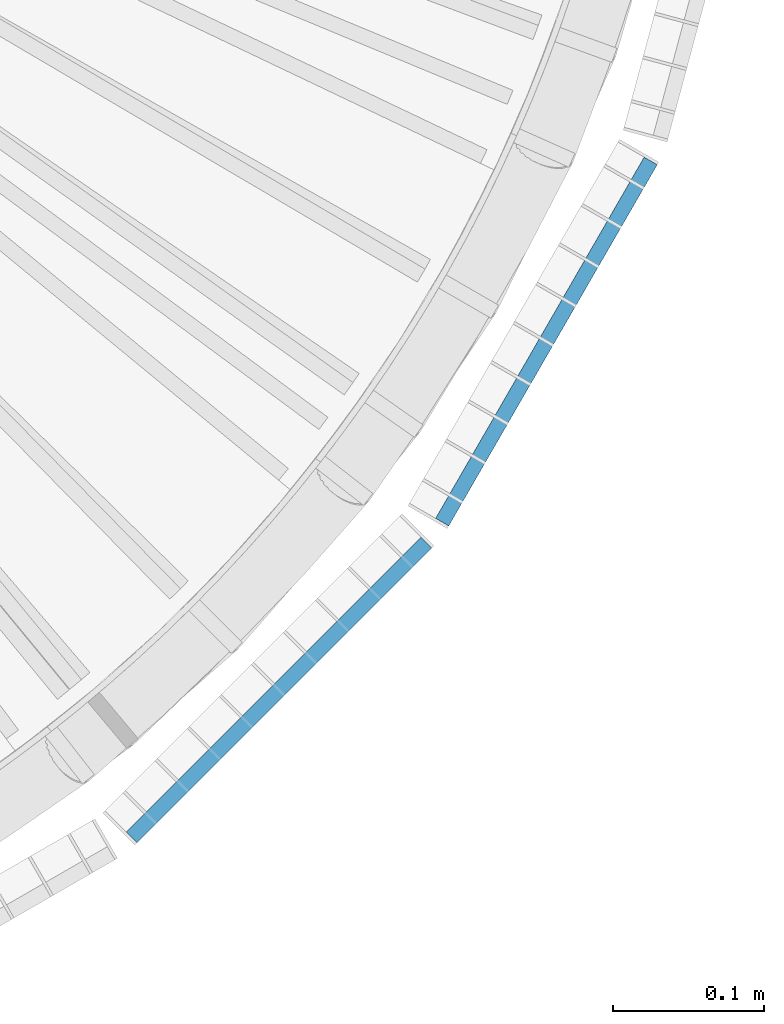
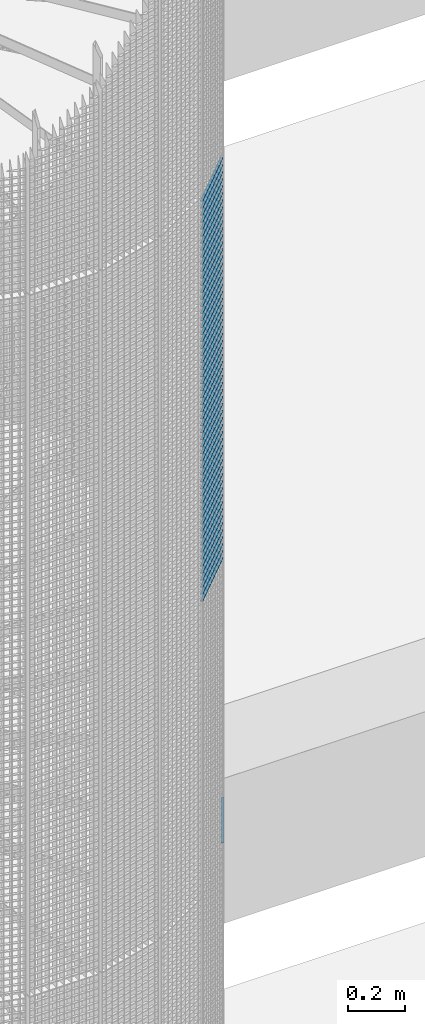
# One storey, part 240 of 1183: 59 beams, 2 elements without a shape of their own.
"""IFC2X3 building model written with IfcOpenShell, lengths in millimetres."""

import ifcopenshell
import ifcopenshell.guid

model = None  # the IFC model being written
_history = None  # IfcOwnerHistory: only IFC2X3 demands one
_inside = {}  # id of a spatial element -> (the spatial element, [elements in it])
_under = {}  # id of a project, library or spatial element -> (it, [spatial elements below it])
_declared = {}  # id of a project -> (the project, [libraries it declares])
_typed = {}  # id of a type object -> (the type object, [elements of that type])
_made_of = {}  # id of a material, layer set ... -> (it, [elements and type objects made of it])


def new_model(schema):
    """Start an empty IFC model of exactly this schema.

    Asked for "IFC4X3", IfcOpenShell would pick the latest addendum, in which some entities
    have other attributes; the version numbers below select the first issue.
    IFC2X3 requires an IfcOwnerHistory on every rooted entity: one is made here for all.
    """
    global model, _history
    if schema == "IFC4X3":
        model = ifcopenshell.file(schema_version=(4, 3, 0, 0))
    else:
        model = ifcopenshell.file(schema=schema)
    _inside.clear()
    _under.clear()
    _declared.clear()
    _typed.clear()
    _made_of.clear()
    _history = None
    if model.schema == "IFC2X3":
        org = make("IfcOrganization", Name="unknown")
        user = make(
            "IfcPersonAndOrganization",
            ThePerson=make("IfcPerson", FamilyName="unknown"),
            TheOrganization=org,
        )
        app = make(
            "IfcApplication",
            ApplicationDeveloper=org,
            Version="unknown",
            ApplicationFullName="unknown",
            ApplicationIdentifier="unknown",
        )
        _history = make(
            "IfcOwnerHistory",
            OwningUser=user,
            OwningApplication=app,
            ChangeAction="ADDED",
            CreationDate=0,
        )
    return model


def make(cls, **values):
    """One entity of the class cls with the attributes given. An attribute that is None is left unset."""
    return model.create_entity(
        cls, **{name: value for name, value in values.items() if value is not None}
    )


def rooted(cls, **values):
    """An entity with a GlobalId (a new one), such as an element, a storey or a relation."""
    return make(cls, GlobalId=ifcopenshell.guid.new(), OwnerHistory=_history, **values)


def si_unit(unit_type, name, prefix=None):
    """IfcSIUnit, for example si_unit("LENGTHUNIT", "METRE", prefix="MILLI")."""
    return make("IfcSIUnit", UnitType=unit_type, Prefix=prefix, Name=name)


def assignment(units):
    """IfcUnitAssignment: the units of a project."""
    return None if units is None else make("IfcUnitAssignment", Units=units)


def point(xyz):
    """IfcCartesianPoint."""
    return None if xyz is None else make("IfcCartesianPoint", Coordinates=xyz)


def direction(xyz):
    """IfcDirection."""
    return None if xyz is None else make("IfcDirection", DirectionRatios=xyz)


def frame(location, z_axis=None, x_axis=None):
    """IfcAxis2Placement3D, a coordinate frame: its origin and axes. An axis left out is left unset."""
    return make(
        "IfcAxis2Placement3D",
        Location=point(location),
        Axis=direction(z_axis),
        RefDirection=direction(x_axis),
    )


def frame_2d(location, x_axis=None):
    """IfcAxis2Placement2D, a coordinate frame in the plane: its origin and x axis."""
    return make(
        "IfcAxis2Placement2D", Location=point(location), RefDirection=direction(x_axis)
    )


def origin_with_axes():
    """The frame at (0, 0, 0) with the z axis (0, 0, 1) and the x axis (1, 0, 0) written out."""
    return frame((0.0, 0.0, 0.0), z_axis=(0.0, 0.0, 1.0), x_axis=(1.0, 0.0, 0.0))


def origin_2d_with_axis():
    """The frame at (0, 0) in the plane with the x axis (1, 0) written out."""
    return frame_2d((0.0, 0.0), x_axis=(1.0, 0.0))


def place(relative_to, where):
    """IfcLocalPlacement: puts the frame where relative to a parent placement (None: the world)."""
    return make(
        "IfcLocalPlacement", PlacementRelTo=relative_to, RelativePlacement=where
    )


def context(
    kind, dimensions, precision=None, world=None, true_north=None, identifier=None
):
    """IfcGeometricRepresentationContext, for example the 3D "Model" context."""
    return make(
        "IfcGeometricRepresentationContext",
        ContextIdentifier=identifier,
        ContextType=kind,
        CoordinateSpaceDimension=dimensions,
        Precision=precision,
        WorldCoordinateSystem=world,
        TrueNorth=true_north,
    )


def subcontext(parent, identifier, kind, view, scale=None):
    """IfcGeometricRepresentationSubContext, for example "Body" below "Model"."""
    return make(
        "IfcGeometricRepresentationSubContext",
        ContextIdentifier=identifier,
        ContextType=kind,
        ParentContext=parent,
        TargetScale=scale,
        TargetView=view,
    )


def project(units=None, contexts=None):
    """IfcProject with its units and contexts."""
    return rooted(
        "IfcProject",
        Name="project",
        RepresentationContexts=contexts,
        UnitsInContext=assignment(units),
    )


def spatial(cls, under=None, at=None, **own):
    """A site, building, storey or space (cls), placed at a placement, below another one or the project."""
    s = rooted(cls, ObjectPlacement=at, **own)
    if under is not None:
        _under.setdefault(under.id(), (under, []))[1].append(s)
    return s


def profile(cls, at=None, kind="AREA", **sizes):
    """A parametric profile (cls). Its sizes go by their IFC names, for example OverallWidth=200.0."""
    return make(cls, ProfileType=kind, Position=at, **sizes)


def rectangle(**sizes):
    """IfcRectangleProfileDef."""
    return profile("IfcRectangleProfileDef", **sizes)


def extrude(swept, where, along, depth):
    """IfcExtrudedAreaSolid: the profile swept, set in the frame where, extruded along a direction by depth."""
    return make(
        "IfcExtrudedAreaSolid",
        SweptArea=swept,
        Position=where,
        ExtrudedDirection=direction(along),
        Depth=depth,
    )


def shape(context_of_items, identifier, shape_type, items):
    """IfcShapeRepresentation: the items that make up one representation, for example the "Body"."""
    return make(
        "IfcShapeRepresentation",
        ContextOfItems=context_of_items,
        RepresentationIdentifier=identifier,
        RepresentationType=shape_type,
        Items=items,
    )


def material(Name=None, Category=None):
    """IfcMaterial."""
    return make("IfcMaterial", Name=Name, Category=Category)


def made_of(thing, what):
    """Note that an element or type object is made of a material, layer set ...; save() writes the relation."""
    if what is not None:
        _made_of.setdefault(what.id(), (what, []))[1].append(thing)
    return thing


def type_object(cls, material=None, **own):
    """A type object (cls), such as IfcWallType, which elements share."""
    return made_of(rooted(cls, **own), material)


def element(
    cls,
    number,
    at=None,
    inside=None,
    cuts=None,
    type_object=None,
    material=None,
    context=None,
    identifier="Body",
    shape_type=None,
    held_by="IfcProductDefinitionShape",
    body=None,
    shapes=None,
    **own,
):
    """One element of the class cls, such as IfcWall. Its Tag is "e" and its number.

    at: its placement. inside: the storey or other place that contains it. cuts: it is an
    opening in that element (IfcRelVoidsElement). A single representation is given by context,
    identifier, shape_type and body (its items); several are given by shapes. held_by: the class
    of the entity that holds the representations. save() writes the other relations.
    """
    e = rooted(cls, Tag="e%d" % number, ObjectPlacement=at, **own)
    if body is not None:
        shapes = [shape(context, identifier, shape_type, body)]
    if shapes is not None:
        e.Representation = make(held_by, Representations=shapes)
    if inside is not None:
        _inside.setdefault(inside.id(), (inside, []))[1].append(e)
    if cuts is not None:
        rooted(
            "IfcRelVoidsElement", RelatingBuildingElement=cuts, RelatedOpeningElement=e
        )
    if type_object is not None:
        _typed.setdefault(type_object.id(), (type_object, []))[1].append(e)
    return made_of(e, material)


def aggregate(whole, parts):
    """IfcRelAggregates: a whole, such as a stair, and the parts it consists of."""
    return rooted("IfcRelAggregates", RelatingObject=whole, RelatedObjects=parts)


def save(model, path):
    """Write the relations noted so far, then the file.

    IfcRelAggregates (storeys below a building ...), IfcRelContainedInSpatialStructure (elements
    in a storey), IfcRelDefinesByType, IfcRelAssociatesMaterial and IfcRelDeclares: one each for
    every whole, place, type object, material and project.
    """
    for whole, parts in _under.values():
        aggregate(whole, parts)
    for where, things in _inside.values():
        rooted(
            "IfcRelContainedInSpatialStructure",
            RelatedElements=things,
            RelatingStructure=where,
        )
    for kind, things in _typed.values():
        rooted("IfcRelDefinesByType", RelatedObjects=things, RelatingType=kind)
    for what, things in _made_of.values():
        rooted("IfcRelAssociatesMaterial", RelatedObjects=things, RelatingMaterial=what)
    for by, libraries in _declared.values():
        rooted("IfcRelDeclares", RelatingContext=by, RelatedDefinitions=libraries)
    model.write(path)


model = new_model("IFC2X3")

# Units and contexts
model_context = context("Model", 3, precision=1e-05, world=origin_with_axes())
body_context = subcontext(model_context, "Body", "Model", "MODEL_VIEW")
ifc_project = project(units=[si_unit("LENGTHUNIT", "METRE", prefix="MILLI"), si_unit("AREAUNIT", "SQUARE_METRE"), si_unit("VOLUMEUNIT", "CUBIC_METRE"), si_unit("MASSUNIT", "GRAM", prefix="KILO"), si_unit("TIMEUNIT", "SECOND"), si_unit("PLANEANGLEUNIT", "RADIAN"), si_unit("SOLIDANGLEUNIT", "STERADIAN"), si_unit("THERMODYNAMICTEMPERATUREUNIT", "DEGREE_CELSIUS"), si_unit("LUMINOUSINTENSITYUNIT", "LUMEN")], contexts=[model_context])

# Site, building, storey
site_placement = place(None, origin_with_axes())
site = spatial("IfcSite", under=ifc_project, at=site_placement, Name="Undefined", CompositionType="ELEMENT")
building_placement = place(site_placement, origin_with_axes())
building = spatial("IfcBuilding", under=site, at=building_placement, Name="Undefined", CompositionType="ELEMENT")
storey_placement = place(building_placement, origin_with_axes())
storey = spatial("IfcBuildingStorey", under=building, at=storey_placement, Name="Undefined", CompositionType="ELEMENT", Elevation=0.0)

# Assembly, beam
assembly_1_placement = place(storey_placement, origin_with_axes())
assembly_1 = element("IfcElementAssembly", 1, at=assembly_1_placement, inside=storey, Name="BORDURE", AssemblyPlace="NOTDEFINED", PredefinedType="NOTDEFINED")
ifc_material = material(Name="STEEL/S235JR")
beam_type = type_object("IfcBeamType", Name="PL2*10", PredefinedType="NOTDEFINED")
beam_1_placement = place(assembly_1_placement, frame((895.30396491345, -676.248044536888, 12030.0), z_axis=(0.866025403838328, -0.49999999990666, 0.0), x_axis=(0.49999999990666, 0.866025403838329, 0.0)))
beam_1 = element("IfcBeam", 2, at=beam_1_placement, type_object=beam_type, material=ifc_material, Name="ENTRETOISE", context=body_context, shape_type="SweptSolid", body=[
    extrude(rectangle(XDim=2.0, YDim=10.0, at=origin_2d_with_axis()), frame((275.999999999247, 9.09494701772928e-13, 1.53210777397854e-14), z_axis=(-1.0, 0.0, 0.0), x_axis=(0.0, -1.0, 0.0)), (0.0, 0.0, 1.0), 276.0),
])
aggregate(assembly_1, [beam_1])

# Assembly, beams
assembly_2_placement = place(storey_placement, origin_with_axes())
assembly_2 = element("IfcElementAssembly", 3, at=assembly_2_placement, inside=storey, Name="BORDURE", AssemblyPlace="NOTDEFINED", PredefinedType="NOTDEFINED")
beam_2_placement = place(assembly_2_placement, frame((689.771348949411, -884.927168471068, 14970.0), z_axis=(0.707106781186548, -0.707106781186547, 0.0), x_axis=(0.707106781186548, 0.707106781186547, 0.0)))
beam_2 = element("IfcBeam", 4, at=beam_2_placement, type_object=beam_type, material=ifc_material, Name="ENTRETOISE", context=body_context, shape_type="SweptSolid", body=[
    extrude(rectangle(XDim=2.0, YDim=10.0, at=origin_2d_with_axis()), frame((275.999999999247, 9.09494701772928e-13, 1.53210777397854e-14), z_axis=(-1.0, 0.0, 0.0), x_axis=(0.0, -1.0, 0.0)), (0.0, 0.0, 1.0), 276.0),
])
beam_3_placement = place(assembly_2_placement, frame((689.771348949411, -884.927168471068, 14940.0), z_axis=(0.707106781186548, -0.707106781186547, 0.0), x_axis=(0.707106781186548, 0.707106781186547, 0.0)))
beam_3 = element("IfcBeam", 5, at=beam_3_placement, type_object=beam_type, material=ifc_material, Name="ENTRETOISE", context=body_context, shape_type="SweptSolid", body=[
    extrude(rectangle(XDim=2.0, YDim=10.0, at=origin_2d_with_axis()), frame((275.999999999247, 9.09494701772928e-13, 1.53210777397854e-14), z_axis=(-1.0, 0.0, 0.0), x_axis=(0.0, -1.0, 0.0)), (0.0, 0.0, 1.0), 276.0),
])
beam_4_placement = place(assembly_2_placement, frame((689.771348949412, -884.927168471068, 14910.0), z_axis=(0.707106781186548, -0.707106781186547, 0.0), x_axis=(0.707106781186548, 0.707106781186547, 0.0)))
beam_4 = element("IfcBeam", 6, at=beam_4_placement, type_object=beam_type, material=ifc_material, Name="ENTRETOISE", context=body_context, shape_type="SweptSolid", body=[
    extrude(rectangle(XDim=2.0, YDim=10.0, at=origin_2d_with_axis()), frame((275.999999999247, 9.09494701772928e-13, 1.53210777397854e-14), z_axis=(-1.0, 0.0, 0.0), x_axis=(0.0, -1.0, 0.0)), (0.0, 0.0, 1.0), 276.0),
])
beam_5_placement = place(assembly_2_placement, frame((689.771348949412, -884.927168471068, 14880.0), z_axis=(0.707106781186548, -0.707106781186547, 0.0), x_axis=(0.707106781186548, 0.707106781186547, 0.0)))
beam_5 = element("IfcBeam", 7, at=beam_5_placement, type_object=beam_type, material=ifc_material, Name="ENTRETOISE", context=body_context, shape_type="SweptSolid", body=[
    extrude(rectangle(XDim=2.0, YDim=10.0, at=origin_2d_with_axis()), frame((275.999999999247, 9.09494701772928e-13, 1.53210777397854e-14), z_axis=(-1.0, 0.0, 0.0), x_axis=(0.0, -1.0, 0.0)), (0.0, 0.0, 1.0), 276.0),
])
beam_6_placement = place(assembly_2_placement, frame((689.771348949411, -884.927168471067, 14850.0), z_axis=(0.707106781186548, -0.707106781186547, 0.0), x_axis=(0.707106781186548, 0.707106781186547, 0.0)))
beam_6 = element("IfcBeam", 8, at=beam_6_placement, type_object=beam_type, material=ifc_material, Name="ENTRETOISE", context=body_context, shape_type="SweptSolid", body=[
    extrude(rectangle(XDim=2.0, YDim=10.0, at=origin_2d_with_axis()), frame((275.999999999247, 9.09494701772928e-13, 1.53210777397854e-14), z_axis=(-1.0, 0.0, 0.0), x_axis=(0.0, -1.0, 0.0)), (0.0, 0.0, 1.0), 276.0),
])
beam_7_placement = place(assembly_2_placement, frame((689.771348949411, -884.927168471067, 14820.0), z_axis=(0.707106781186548, -0.707106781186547, 0.0), x_axis=(0.707106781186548, 0.707106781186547, 0.0)))
beam_7 = element("IfcBeam", 9, at=beam_7_placement, type_object=beam_type, material=ifc_material, Name="ENTRETOISE", context=body_context, shape_type="SweptSolid", body=[
    extrude(rectangle(XDim=2.0, YDim=10.0, at=origin_2d_with_axis()), frame((275.999999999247, 9.09494701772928e-13, 1.53210777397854e-14), z_axis=(-1.0, 0.0, 0.0), x_axis=(0.0, -1.0, 0.0)), (0.0, 0.0, 1.0), 276.0),
])
beam_8_placement = place(assembly_2_placement, frame((689.771348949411, -884.927168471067, 14790.0), z_axis=(0.707106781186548, -0.707106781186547, 0.0), x_axis=(0.707106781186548, 0.707106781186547, 0.0)))
beam_8 = element("IfcBeam", 10, at=beam_8_placement, type_object=beam_type, material=ifc_material, Name="ENTRETOISE", context=body_context, shape_type="SweptSolid", body=[
    extrude(rectangle(XDim=2.0, YDim=10.0, at=origin_2d_with_axis()), frame((275.999999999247, 9.09494701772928e-13, 1.53210777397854e-14), z_axis=(-1.0, 0.0, 0.0), x_axis=(0.0, -1.0, 0.0)), (0.0, 0.0, 1.0), 276.0),
])
beam_9_placement = place(assembly_2_placement, frame((689.771348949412, -884.927168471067, 14760.0), z_axis=(0.707106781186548, -0.707106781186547, 0.0), x_axis=(0.707106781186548, 0.707106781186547, 0.0)))
beam_9 = element("IfcBeam", 11, at=beam_9_placement, type_object=beam_type, material=ifc_material, Name="ENTRETOISE", context=body_context, shape_type="SweptSolid", body=[
    extrude(rectangle(XDim=2.0, YDim=10.0, at=origin_2d_with_axis()), frame((275.999999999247, 9.09494701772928e-13, 1.53210777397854e-14), z_axis=(-1.0, 0.0, 0.0), x_axis=(0.0, -1.0, 0.0)), (0.0, 0.0, 1.0), 276.0),
])
beam_10_placement = place(assembly_2_placement, frame((689.771348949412, -884.927168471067, 14730.0), z_axis=(0.707106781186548, -0.707106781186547, 0.0), x_axis=(0.707106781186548, 0.707106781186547, 0.0)))
beam_10 = element("IfcBeam", 12, at=beam_10_placement, type_object=beam_type, material=ifc_material, Name="ENTRETOISE", context=body_context, shape_type="SweptSolid", body=[
    extrude(rectangle(XDim=2.0, YDim=10.0, at=origin_2d_with_axis()), frame((275.999999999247, 9.09494701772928e-13, 1.53210777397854e-14), z_axis=(-1.0, 0.0, 0.0), x_axis=(0.0, -1.0, 0.0)), (0.0, 0.0, 1.0), 276.0),
])
beam_11_placement = place(assembly_2_placement, frame((689.771348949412, -884.927168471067, 14700.0), z_axis=(0.707106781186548, -0.707106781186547, 0.0), x_axis=(0.707106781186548, 0.707106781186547, 0.0)))
beam_11 = element("IfcBeam", 13, at=beam_11_placement, type_object=beam_type, material=ifc_material, Name="ENTRETOISE", context=body_context, shape_type="SweptSolid", body=[
    extrude(rectangle(XDim=2.0, YDim=10.0, at=origin_2d_with_axis()), frame((275.999999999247, 9.09494701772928e-13, 1.53210777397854e-14), z_axis=(-1.0, 0.0, 0.0), x_axis=(0.0, -1.0, 0.0)), (0.0, 0.0, 1.0), 276.0),
])
beam_12_placement = place(assembly_2_placement, frame((689.771348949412, -884.927168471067, 14670.0), z_axis=(0.707106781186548, -0.707106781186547, 0.0), x_axis=(0.707106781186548, 0.707106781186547, 0.0)))
beam_12 = element("IfcBeam", 14, at=beam_12_placement, type_object=beam_type, material=ifc_material, Name="ENTRETOISE", context=body_context, shape_type="SweptSolid", body=[
    extrude(rectangle(XDim=2.0, YDim=10.0, at=origin_2d_with_axis()), frame((275.999999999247, 9.09494701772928e-13, 1.53210777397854e-14), z_axis=(-1.0, 0.0, 0.0), x_axis=(0.0, -1.0, 0.0)), (0.0, 0.0, 1.0), 276.0),
])
beam_13_placement = place(assembly_2_placement, frame((689.771348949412, -884.927168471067, 14640.0), z_axis=(0.707106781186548, -0.707106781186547, 0.0), x_axis=(0.707106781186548, 0.707106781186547, 0.0)))
beam_13 = element("IfcBeam", 15, at=beam_13_placement, type_object=beam_type, material=ifc_material, Name="ENTRETOISE", context=body_context, shape_type="SweptSolid", body=[
    extrude(rectangle(XDim=2.0, YDim=10.0, at=origin_2d_with_axis()), frame((275.999999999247, 9.09494701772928e-13, 1.53210777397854e-14), z_axis=(-1.0, 0.0, 0.0), x_axis=(0.0, -1.0, 0.0)), (0.0, 0.0, 1.0), 276.0),
])
beam_14_placement = place(assembly_2_placement, frame((689.771348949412, -884.927168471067, 14610.0), z_axis=(0.707106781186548, -0.707106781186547, 0.0), x_axis=(0.707106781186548, 0.707106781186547, 0.0)))
beam_14 = element("IfcBeam", 16, at=beam_14_placement, type_object=beam_type, material=ifc_material, Name="ENTRETOISE", context=body_context, shape_type="SweptSolid", body=[
    extrude(rectangle(XDim=2.0, YDim=10.0, at=origin_2d_with_axis()), frame((275.999999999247, 9.09494701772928e-13, 1.53210777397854e-14), z_axis=(-1.0, 0.0, 0.0), x_axis=(0.0, -1.0, 0.0)), (0.0, 0.0, 1.0), 276.0),
])
beam_15_placement = place(assembly_2_placement, frame((689.771348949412, -884.927168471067, 14580.0), z_axis=(0.707106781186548, -0.707106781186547, 0.0), x_axis=(0.707106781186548, 0.707106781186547, 0.0)))
beam_15 = element("IfcBeam", 17, at=beam_15_placement, type_object=beam_type, material=ifc_material, Name="ENTRETOISE", context=body_context, shape_type="SweptSolid", body=[
    extrude(rectangle(XDim=2.0, YDim=10.0, at=origin_2d_with_axis()), frame((275.999999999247, 9.09494701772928e-13, 1.53210777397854e-14), z_axis=(-1.0, 0.0, 0.0), x_axis=(0.0, -1.0, 0.0)), (0.0, 0.0, 1.0), 276.0),
])
beam_16_placement = place(assembly_2_placement, frame((689.771348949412, -884.927168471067, 14550.0), z_axis=(0.707106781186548, -0.707106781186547, 0.0), x_axis=(0.707106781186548, 0.707106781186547, 0.0)))
beam_16 = element("IfcBeam", 18, at=beam_16_placement, type_object=beam_type, material=ifc_material, Name="ENTRETOISE", context=body_context, shape_type="SweptSolid", body=[
    extrude(rectangle(XDim=2.0, YDim=10.0, at=origin_2d_with_axis()), frame((275.999999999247, 9.09494701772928e-13, 1.53210777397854e-14), z_axis=(-1.0, 0.0, 0.0), x_axis=(0.0, -1.0, 0.0)), (0.0, 0.0, 1.0), 276.0),
])
beam_17_placement = place(assembly_2_placement, frame((689.771348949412, -884.927168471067, 14520.0), z_axis=(0.707106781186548, -0.707106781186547, 0.0), x_axis=(0.707106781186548, 0.707106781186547, 0.0)))
beam_17 = element("IfcBeam", 19, at=beam_17_placement, type_object=beam_type, material=ifc_material, Name="ENTRETOISE", context=body_context, shape_type="SweptSolid", body=[
    extrude(rectangle(XDim=2.0, YDim=10.0, at=origin_2d_with_axis()), frame((275.999999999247, 9.09494701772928e-13, 1.53210777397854e-14), z_axis=(-1.0, 0.0, 0.0), x_axis=(0.0, -1.0, 0.0)), (0.0, 0.0, 1.0), 276.0),
])
beam_18_placement = place(assembly_2_placement, frame((689.771348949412, -884.927168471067, 14490.0), z_axis=(0.707106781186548, -0.707106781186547, 0.0), x_axis=(0.707106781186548, 0.707106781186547, 0.0)))
beam_18 = element("IfcBeam", 20, at=beam_18_placement, type_object=beam_type, material=ifc_material, Name="ENTRETOISE", context=body_context, shape_type="SweptSolid", body=[
    extrude(rectangle(XDim=2.0, YDim=10.0, at=origin_2d_with_axis()), frame((275.999999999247, 9.09494701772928e-13, 1.53210777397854e-14), z_axis=(-1.0, 0.0, 0.0), x_axis=(0.0, -1.0, 0.0)), (0.0, 0.0, 1.0), 276.0),
])
beam_19_placement = place(assembly_2_placement, frame((689.771348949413, -884.927168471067, 14460.0), z_axis=(0.707106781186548, -0.707106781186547, 0.0), x_axis=(0.707106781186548, 0.707106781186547, 0.0)))
beam_19 = element("IfcBeam", 21, at=beam_19_placement, type_object=beam_type, material=ifc_material, Name="ENTRETOISE", context=body_context, shape_type="SweptSolid", body=[
    extrude(rectangle(XDim=2.0, YDim=10.0, at=origin_2d_with_axis()), frame((275.999999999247, 9.09494701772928e-13, 1.53210777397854e-14), z_axis=(-1.0, 0.0, 0.0), x_axis=(0.0, -1.0, 0.0)), (0.0, 0.0, 1.0), 276.0),
])
beam_20_placement = place(assembly_2_placement, frame((689.771348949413, -884.927168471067, 14430.0), z_axis=(0.707106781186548, -0.707106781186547, 0.0), x_axis=(0.707106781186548, 0.707106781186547, 0.0)))
beam_20 = element("IfcBeam", 22, at=beam_20_placement, type_object=beam_type, material=ifc_material, Name="ENTRETOISE", context=body_context, shape_type="SweptSolid", body=[
    extrude(rectangle(XDim=2.0, YDim=10.0, at=origin_2d_with_axis()), frame((275.999999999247, 9.09494701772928e-13, 1.53210777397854e-14), z_axis=(-1.0, 0.0, 0.0), x_axis=(0.0, -1.0, 0.0)), (0.0, 0.0, 1.0), 276.0),
])
beam_21_placement = place(assembly_2_placement, frame((689.771348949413, -884.927168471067, 14400.0), z_axis=(0.707106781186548, -0.707106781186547, 0.0), x_axis=(0.707106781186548, 0.707106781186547, 0.0)))
beam_21 = element("IfcBeam", 23, at=beam_21_placement, type_object=beam_type, material=ifc_material, Name="ENTRETOISE", context=body_context, shape_type="SweptSolid", body=[
    extrude(rectangle(XDim=2.0, YDim=10.0, at=origin_2d_with_axis()), frame((275.999999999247, 9.09494701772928e-13, 1.53210777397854e-14), z_axis=(-1.0, 0.0, 0.0), x_axis=(0.0, -1.0, 0.0)), (0.0, 0.0, 1.0), 276.0),
])
beam_22_placement = place(assembly_2_placement, frame((689.771348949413, -884.927168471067, 14370.0), z_axis=(0.707106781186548, -0.707106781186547, 0.0), x_axis=(0.707106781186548, 0.707106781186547, 0.0)))
beam_22 = element("IfcBeam", 24, at=beam_22_placement, type_object=beam_type, material=ifc_material, Name="ENTRETOISE", context=body_context, shape_type="SweptSolid", body=[
    extrude(rectangle(XDim=2.0, YDim=10.0, at=origin_2d_with_axis()), frame((275.999999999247, 9.09494701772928e-13, 1.53210777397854e-14), z_axis=(-1.0, 0.0, 0.0), x_axis=(0.0, -1.0, 0.0)), (0.0, 0.0, 1.0), 276.0),
])
beam_23_placement = place(assembly_2_placement, frame((689.771348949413, -884.927168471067, 14340.0), z_axis=(0.707106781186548, -0.707106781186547, 0.0), x_axis=(0.707106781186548, 0.707106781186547, 0.0)))
beam_23 = element("IfcBeam", 25, at=beam_23_placement, type_object=beam_type, material=ifc_material, Name="ENTRETOISE", context=body_context, shape_type="SweptSolid", body=[
    extrude(rectangle(XDim=2.0, YDim=10.0, at=origin_2d_with_axis()), frame((275.999999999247, 9.09494701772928e-13, 1.53210777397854e-14), z_axis=(-1.0, 0.0, 0.0), x_axis=(0.0, -1.0, 0.0)), (0.0, 0.0, 1.0), 276.0),
])
beam_24_placement = place(assembly_2_placement, frame((689.771348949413, -884.927168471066, 14310.0), z_axis=(0.707106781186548, -0.707106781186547, 0.0), x_axis=(0.707106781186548, 0.707106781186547, 0.0)))
beam_24 = element("IfcBeam", 26, at=beam_24_placement, type_object=beam_type, material=ifc_material, Name="ENTRETOISE", context=body_context, shape_type="SweptSolid", body=[
    extrude(rectangle(XDim=2.0, YDim=10.0, at=origin_2d_with_axis()), frame((275.999999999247, 9.09494701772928e-13, 1.53210777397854e-14), z_axis=(-1.0, 0.0, 0.0), x_axis=(0.0, -1.0, 0.0)), (0.0, 0.0, 1.0), 276.0),
])
beam_25_placement = place(assembly_2_placement, frame((689.771348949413, -884.927168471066, 14280.0), z_axis=(0.707106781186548, -0.707106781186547, 0.0), x_axis=(0.707106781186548, 0.707106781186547, 0.0)))
beam_25 = element("IfcBeam", 27, at=beam_25_placement, type_object=beam_type, material=ifc_material, Name="ENTRETOISE", context=body_context, shape_type="SweptSolid", body=[
    extrude(rectangle(XDim=2.0, YDim=10.0, at=origin_2d_with_axis()), frame((275.999999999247, 9.09494701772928e-13, 1.53210777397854e-14), z_axis=(-1.0, 0.0, 0.0), x_axis=(0.0, -1.0, 0.0)), (0.0, 0.0, 1.0), 276.0),
])
beam_26_placement = place(assembly_2_placement, frame((689.771348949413, -884.927168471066, 14250.0), z_axis=(0.707106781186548, -0.707106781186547, 0.0), x_axis=(0.707106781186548, 0.707106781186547, 0.0)))
beam_26 = element("IfcBeam", 28, at=beam_26_placement, type_object=beam_type, material=ifc_material, Name="ENTRETOISE", context=body_context, shape_type="SweptSolid", body=[
    extrude(rectangle(XDim=2.0, YDim=10.0, at=origin_2d_with_axis()), frame((275.999999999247, 9.09494701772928e-13, 1.53210777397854e-14), z_axis=(-1.0, 0.0, 0.0), x_axis=(0.0, -1.0, 0.0)), (0.0, 0.0, 1.0), 276.0),
])
beam_27_placement = place(assembly_2_placement, frame((689.771348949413, -884.927168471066, 14220.0), z_axis=(0.707106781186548, -0.707106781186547, 0.0), x_axis=(0.707106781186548, 0.707106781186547, 0.0)))
beam_27 = element("IfcBeam", 29, at=beam_27_placement, type_object=beam_type, material=ifc_material, Name="ENTRETOISE", context=body_context, shape_type="SweptSolid", body=[
    extrude(rectangle(XDim=2.0, YDim=10.0, at=origin_2d_with_axis()), frame((275.999999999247, 9.09494701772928e-13, 1.53210777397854e-14), z_axis=(-1.0, 0.0, 0.0), x_axis=(0.0, -1.0, 0.0)), (0.0, 0.0, 1.0), 276.0),
])
beam_28_placement = place(assembly_2_placement, frame((689.771348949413, -884.927168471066, 14190.0), z_axis=(0.707106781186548, -0.707106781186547, 0.0), x_axis=(0.707106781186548, 0.707106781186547, 0.0)))
beam_28 = element("IfcBeam", 30, at=beam_28_placement, type_object=beam_type, material=ifc_material, Name="ENTRETOISE", context=body_context, shape_type="SweptSolid", body=[
    extrude(rectangle(XDim=2.0, YDim=10.0, at=origin_2d_with_axis()), frame((275.999999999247, 9.09494701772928e-13, 1.53210777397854e-14), z_axis=(-1.0, 0.0, 0.0), x_axis=(0.0, -1.0, 0.0)), (0.0, 0.0, 1.0), 276.0),
])
beam_29_placement = place(assembly_2_placement, frame((689.771348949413, -884.927168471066, 14160.0), z_axis=(0.707106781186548, -0.707106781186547, 0.0), x_axis=(0.707106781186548, 0.707106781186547, 0.0)))
beam_29 = element("IfcBeam", 31, at=beam_29_placement, type_object=beam_type, material=ifc_material, Name="ENTRETOISE", context=body_context, shape_type="SweptSolid", body=[
    extrude(rectangle(XDim=2.0, YDim=10.0, at=origin_2d_with_axis()), frame((275.999999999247, 9.09494701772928e-13, 1.53210777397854e-14), z_axis=(-1.0, 0.0, 0.0), x_axis=(0.0, -1.0, 0.0)), (0.0, 0.0, 1.0), 276.0),
])
beam_30_placement = place(assembly_2_placement, frame((689.771348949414, -884.927168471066, 14130.0), z_axis=(0.707106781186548, -0.707106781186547, 0.0), x_axis=(0.707106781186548, 0.707106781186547, 0.0)))
beam_30 = element("IfcBeam", 32, at=beam_30_placement, type_object=beam_type, material=ifc_material, Name="ENTRETOISE", context=body_context, shape_type="SweptSolid", body=[
    extrude(rectangle(XDim=2.0, YDim=10.0, at=origin_2d_with_axis()), frame((275.999999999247, 9.09494701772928e-13, 1.53210777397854e-14), z_axis=(-1.0, 0.0, 0.0), x_axis=(0.0, -1.0, 0.0)), (0.0, 0.0, 1.0), 276.0),
])
beam_31_placement = place(assembly_2_placement, frame((689.771348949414, -884.927168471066, 14100.0), z_axis=(0.707106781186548, -0.707106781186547, 0.0), x_axis=(0.707106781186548, 0.707106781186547, 0.0)))
beam_31 = element("IfcBeam", 33, at=beam_31_placement, type_object=beam_type, material=ifc_material, Name="ENTRETOISE", context=body_context, shape_type="SweptSolid", body=[
    extrude(rectangle(XDim=2.0, YDim=10.0, at=origin_2d_with_axis()), frame((275.999999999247, 9.09494701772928e-13, 1.53210777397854e-14), z_axis=(-1.0, 0.0, 0.0), x_axis=(0.0, -1.0, 0.0)), (0.0, 0.0, 1.0), 276.0),
])
beam_32_placement = place(assembly_2_placement, frame((689.771348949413, -884.927168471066, 14070.0), z_axis=(0.707106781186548, -0.707106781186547, 0.0), x_axis=(0.707106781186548, 0.707106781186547, 0.0)))
beam_32 = element("IfcBeam", 34, at=beam_32_placement, type_object=beam_type, material=ifc_material, Name="ENTRETOISE", context=body_context, shape_type="SweptSolid", body=[
    extrude(rectangle(XDim=2.0, YDim=10.0, at=origin_2d_with_axis()), frame((275.999999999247, 9.09494701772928e-13, 1.53210777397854e-14), z_axis=(-1.0, 0.0, 0.0), x_axis=(0.0, -1.0, 0.0)), (0.0, 0.0, 1.0), 276.0),
])
beam_33_placement = place(assembly_2_placement, frame((689.771348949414, -884.927168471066, 14040.0), z_axis=(0.707106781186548, -0.707106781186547, 0.0), x_axis=(0.707106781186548, 0.707106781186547, 0.0)))
beam_33 = element("IfcBeam", 35, at=beam_33_placement, type_object=beam_type, material=ifc_material, Name="ENTRETOISE", context=body_context, shape_type="SweptSolid", body=[
    extrude(rectangle(XDim=2.0, YDim=10.0, at=origin_2d_with_axis()), frame((275.999999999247, 9.09494701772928e-13, 1.53210777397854e-14), z_axis=(-1.0, 0.0, 0.0), x_axis=(0.0, -1.0, 0.0)), (0.0, 0.0, 1.0), 276.0),
])
beam_34_placement = place(assembly_2_placement, frame((689.771348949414, -884.927168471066, 14010.0), z_axis=(0.707106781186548, -0.707106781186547, 0.0), x_axis=(0.707106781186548, 0.707106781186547, 0.0)))
beam_34 = element("IfcBeam", 36, at=beam_34_placement, type_object=beam_type, material=ifc_material, Name="ENTRETOISE", context=body_context, shape_type="SweptSolid", body=[
    extrude(rectangle(XDim=2.0, YDim=10.0, at=origin_2d_with_axis()), frame((275.999999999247, 9.09494701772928e-13, 1.53210777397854e-14), z_axis=(-1.0, 0.0, 0.0), x_axis=(0.0, -1.0, 0.0)), (0.0, 0.0, 1.0), 276.0),
])
beam_35_placement = place(assembly_2_placement, frame((689.771348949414, -884.927168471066, 13980.0), z_axis=(0.707106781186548, -0.707106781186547, 0.0), x_axis=(0.707106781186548, 0.707106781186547, 0.0)))
beam_35 = element("IfcBeam", 37, at=beam_35_placement, type_object=beam_type, material=ifc_material, Name="ENTRETOISE", context=body_context, shape_type="SweptSolid", body=[
    extrude(rectangle(XDim=2.0, YDim=10.0, at=origin_2d_with_axis()), frame((275.999999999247, 9.09494701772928e-13, 1.53210777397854e-14), z_axis=(-1.0, 0.0, 0.0), x_axis=(0.0, -1.0, 0.0)), (0.0, 0.0, 1.0), 276.0),
])
beam_36_placement = place(assembly_2_placement, frame((689.771348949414, -884.927168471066, 13950.0), z_axis=(0.707106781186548, -0.707106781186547, 0.0), x_axis=(0.707106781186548, 0.707106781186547, 0.0)))
beam_36 = element("IfcBeam", 38, at=beam_36_placement, type_object=beam_type, material=ifc_material, Name="ENTRETOISE", context=body_context, shape_type="SweptSolid", body=[
    extrude(rectangle(XDim=2.0, YDim=10.0, at=origin_2d_with_axis()), frame((275.999999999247, 9.09494701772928e-13, 1.53210777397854e-14), z_axis=(-1.0, 0.0, 0.0), x_axis=(0.0, -1.0, 0.0)), (0.0, 0.0, 1.0), 276.0),
])
beam_37_placement = place(assembly_2_placement, frame((689.771348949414, -884.927168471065, 13920.0), z_axis=(0.707106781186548, -0.707106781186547, 0.0), x_axis=(0.707106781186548, 0.707106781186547, 0.0)))
beam_37 = element("IfcBeam", 39, at=beam_37_placement, type_object=beam_type, material=ifc_material, Name="ENTRETOISE", context=body_context, shape_type="SweptSolid", body=[
    extrude(rectangle(XDim=2.0, YDim=10.0, at=origin_2d_with_axis()), frame((275.999999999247, 9.09494701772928e-13, 1.53210777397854e-14), z_axis=(-1.0, 0.0, 0.0), x_axis=(0.0, -1.0, 0.0)), (0.0, 0.0, 1.0), 276.0),
])
beam_38_placement = place(assembly_2_placement, frame((689.771348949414, -884.927168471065, 13890.0), z_axis=(0.707106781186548, -0.707106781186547, 0.0), x_axis=(0.707106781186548, 0.707106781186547, 0.0)))
beam_38 = element("IfcBeam", 40, at=beam_38_placement, type_object=beam_type, material=ifc_material, Name="ENTRETOISE", context=body_context, shape_type="SweptSolid", body=[
    extrude(rectangle(XDim=2.0, YDim=10.0, at=origin_2d_with_axis()), frame((275.999999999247, 9.09494701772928e-13, 1.53210777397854e-14), z_axis=(-1.0, 0.0, 0.0), x_axis=(0.0, -1.0, 0.0)), (0.0, 0.0, 1.0), 276.0),
])
beam_39_placement = place(assembly_2_placement, frame((689.771348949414, -884.927168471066, 13860.0), z_axis=(0.707106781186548, -0.707106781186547, 0.0), x_axis=(0.707106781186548, 0.707106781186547, 0.0)))
beam_39 = element("IfcBeam", 41, at=beam_39_placement, type_object=beam_type, material=ifc_material, Name="ENTRETOISE", context=body_context, shape_type="SweptSolid", body=[
    extrude(rectangle(XDim=2.0, YDim=10.0, at=origin_2d_with_axis()), frame((275.999999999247, 9.09494701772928e-13, 1.53210777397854e-14), z_axis=(-1.0, 0.0, 0.0), x_axis=(0.0, -1.0, 0.0)), (0.0, 0.0, 1.0), 276.0),
])
beam_40_placement = place(assembly_2_placement, frame((689.771348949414, -884.927168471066, 13830.0), z_axis=(0.707106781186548, -0.707106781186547, 0.0), x_axis=(0.707106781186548, 0.707106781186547, 0.0)))
beam_40 = element("IfcBeam", 42, at=beam_40_placement, type_object=beam_type, material=ifc_material, Name="ENTRETOISE", context=body_context, shape_type="SweptSolid", body=[
    extrude(rectangle(XDim=2.0, YDim=10.0, at=origin_2d_with_axis()), frame((275.999999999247, 9.09494701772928e-13, 1.53210777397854e-14), z_axis=(-1.0, 0.0, 0.0), x_axis=(0.0, -1.0, 0.0)), (0.0, 0.0, 1.0), 276.0),
])
beam_41_placement = place(assembly_2_placement, frame((689.771348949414, -884.927168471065, 13800.0), z_axis=(0.707106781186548, -0.707106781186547, 0.0), x_axis=(0.707106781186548, 0.707106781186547, 0.0)))
beam_41 = element("IfcBeam", 43, at=beam_41_placement, type_object=beam_type, material=ifc_material, Name="ENTRETOISE", context=body_context, shape_type="SweptSolid", body=[
    extrude(rectangle(XDim=2.0, YDim=10.0, at=origin_2d_with_axis()), frame((275.999999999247, 9.09494701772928e-13, 1.53210777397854e-14), z_axis=(-1.0, 0.0, 0.0), x_axis=(0.0, -1.0, 0.0)), (0.0, 0.0, 1.0), 276.0),
])
beam_42_placement = place(assembly_2_placement, frame((689.771348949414, -884.927168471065, 13770.0), z_axis=(0.707106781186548, -0.707106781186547, 0.0), x_axis=(0.707106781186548, 0.707106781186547, 0.0)))
beam_42 = element("IfcBeam", 44, at=beam_42_placement, type_object=beam_type, material=ifc_material, Name="ENTRETOISE", context=body_context, shape_type="SweptSolid", body=[
    extrude(rectangle(XDim=2.0, YDim=10.0, at=origin_2d_with_axis()), frame((275.999999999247, 9.09494701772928e-13, 1.53210777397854e-14), z_axis=(-1.0, 0.0, 0.0), x_axis=(0.0, -1.0, 0.0)), (0.0, 0.0, 1.0), 276.0),
])
beam_43_placement = place(assembly_2_placement, frame((689.771348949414, -884.927168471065, 13740.0), z_axis=(0.707106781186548, -0.707106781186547, 0.0), x_axis=(0.707106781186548, 0.707106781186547, 0.0)))
beam_43 = element("IfcBeam", 45, at=beam_43_placement, type_object=beam_type, material=ifc_material, Name="ENTRETOISE", context=body_context, shape_type="SweptSolid", body=[
    extrude(rectangle(XDim=2.0, YDim=10.0, at=origin_2d_with_axis()), frame((275.999999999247, 9.09494701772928e-13, 1.53210777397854e-14), z_axis=(-1.0, 0.0, 0.0), x_axis=(0.0, -1.0, 0.0)), (0.0, 0.0, 1.0), 276.0),
])
beam_44_placement = place(assembly_2_placement, frame((689.771348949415, -884.927168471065, 13710.0), z_axis=(0.707106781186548, -0.707106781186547, 0.0), x_axis=(0.707106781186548, 0.707106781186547, 0.0)))
beam_44 = element("IfcBeam", 46, at=beam_44_placement, type_object=beam_type, material=ifc_material, Name="ENTRETOISE", context=body_context, shape_type="SweptSolid", body=[
    extrude(rectangle(XDim=2.0, YDim=10.0, at=origin_2d_with_axis()), frame((275.999999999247, 9.09494701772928e-13, 1.53210777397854e-14), z_axis=(-1.0, 0.0, 0.0), x_axis=(0.0, -1.0, 0.0)), (0.0, 0.0, 1.0), 276.0),
])
beam_45_placement = place(assembly_2_placement, frame((689.771348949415, -884.927168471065, 13680.0), z_axis=(0.707106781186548, -0.707106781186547, 0.0), x_axis=(0.707106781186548, 0.707106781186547, 0.0)))
beam_45 = element("IfcBeam", 47, at=beam_45_placement, type_object=beam_type, material=ifc_material, Name="ENTRETOISE", context=body_context, shape_type="SweptSolid", body=[
    extrude(rectangle(XDim=2.0, YDim=10.0, at=origin_2d_with_axis()), frame((275.999999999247, 9.09494701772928e-13, 1.53210777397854e-14), z_axis=(-1.0, 0.0, 0.0), x_axis=(0.0, -1.0, 0.0)), (0.0, 0.0, 1.0), 276.0),
])
beam_46_placement = place(assembly_2_placement, frame((689.771348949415, -884.927168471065, 13650.0), z_axis=(0.707106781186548, -0.707106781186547, 0.0), x_axis=(0.707106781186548, 0.707106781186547, 0.0)))
beam_46 = element("IfcBeam", 48, at=beam_46_placement, type_object=beam_type, material=ifc_material, Name="ENTRETOISE", context=body_context, shape_type="SweptSolid", body=[
    extrude(rectangle(XDim=2.0, YDim=10.0, at=origin_2d_with_axis()), frame((275.999999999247, 9.09494701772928e-13, 1.53210777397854e-14), z_axis=(-1.0, 0.0, 0.0), x_axis=(0.0, -1.0, 0.0)), (0.0, 0.0, 1.0), 276.0),
])
beam_47_placement = place(assembly_2_placement, frame((689.771348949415, -884.927168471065, 13620.0), z_axis=(0.707106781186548, -0.707106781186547, 0.0), x_axis=(0.707106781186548, 0.707106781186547, 0.0)))
beam_47 = element("IfcBeam", 49, at=beam_47_placement, type_object=beam_type, material=ifc_material, Name="ENTRETOISE", context=body_context, shape_type="SweptSolid", body=[
    extrude(rectangle(XDim=2.0, YDim=10.0, at=origin_2d_with_axis()), frame((275.999999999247, 9.09494701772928e-13, 1.53210777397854e-14), z_axis=(-1.0, 0.0, 0.0), x_axis=(0.0, -1.0, 0.0)), (0.0, 0.0, 1.0), 276.0),
])
beam_48_placement = place(assembly_2_placement, frame((689.771348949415, -884.927168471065, 13590.0), z_axis=(0.707106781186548, -0.707106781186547, 0.0), x_axis=(0.707106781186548, 0.707106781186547, 0.0)))
beam_48 = element("IfcBeam", 50, at=beam_48_placement, type_object=beam_type, material=ifc_material, Name="ENTRETOISE", context=body_context, shape_type="SweptSolid", body=[
    extrude(rectangle(XDim=2.0, YDim=10.0, at=origin_2d_with_axis()), frame((275.999999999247, 9.09494701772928e-13, 1.53210777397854e-14), z_axis=(-1.0, 0.0, 0.0), x_axis=(0.0, -1.0, 0.0)), (0.0, 0.0, 1.0), 276.0),
])
beam_49_placement = place(assembly_2_placement, frame((689.771348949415, -884.927168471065, 13560.0), z_axis=(0.707106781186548, -0.707106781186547, 0.0), x_axis=(0.707106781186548, 0.707106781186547, 0.0)))
beam_49 = element("IfcBeam", 51, at=beam_49_placement, type_object=beam_type, material=ifc_material, Name="ENTRETOISE", context=body_context, shape_type="SweptSolid", body=[
    extrude(rectangle(XDim=2.0, YDim=10.0, at=origin_2d_with_axis()), frame((275.999999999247, 9.09494701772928e-13, 1.53210777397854e-14), z_axis=(-1.0, 0.0, 0.0), x_axis=(0.0, -1.0, 0.0)), (0.0, 0.0, 1.0), 276.0),
])
beam_50_placement = place(assembly_2_placement, frame((689.771348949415, -884.927168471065, 13530.0), z_axis=(0.707106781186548, -0.707106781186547, 0.0), x_axis=(0.707106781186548, 0.707106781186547, 0.0)))
beam_50 = element("IfcBeam", 52, at=beam_50_placement, type_object=beam_type, material=ifc_material, Name="ENTRETOISE", context=body_context, shape_type="SweptSolid", body=[
    extrude(rectangle(XDim=2.0, YDim=10.0, at=origin_2d_with_axis()), frame((275.999999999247, 9.09494701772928e-13, 1.53210777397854e-14), z_axis=(-1.0, 0.0, 0.0), x_axis=(0.0, -1.0, 0.0)), (0.0, 0.0, 1.0), 276.0),
])
beam_51_placement = place(assembly_2_placement, frame((689.771348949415, -884.927168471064, 13500.0), z_axis=(0.707106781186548, -0.707106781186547, 0.0), x_axis=(0.707106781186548, 0.707106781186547, 0.0)))
beam_51 = element("IfcBeam", 53, at=beam_51_placement, type_object=beam_type, material=ifc_material, Name="ENTRETOISE", context=body_context, shape_type="SweptSolid", body=[
    extrude(rectangle(XDim=2.0, YDim=10.0, at=origin_2d_with_axis()), frame((275.999999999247, 9.09494701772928e-13, 1.53210777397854e-14), z_axis=(-1.0, 0.0, 0.0), x_axis=(0.0, -1.0, 0.0)), (0.0, 0.0, 1.0), 276.0),
])
beam_52_placement = place(assembly_2_placement, frame((689.771348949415, -884.927168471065, 13470.0), z_axis=(0.707106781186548, -0.707106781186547, 0.0), x_axis=(0.707106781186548, 0.707106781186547, 0.0)))
beam_52 = element("IfcBeam", 54, at=beam_52_placement, type_object=beam_type, material=ifc_material, Name="ENTRETOISE", context=body_context, shape_type="SweptSolid", body=[
    extrude(rectangle(XDim=2.0, YDim=10.0, at=origin_2d_with_axis()), frame((275.999999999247, 9.09494701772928e-13, 1.53210777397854e-14), z_axis=(-1.0, 0.0, 0.0), x_axis=(0.0, -1.0, 0.0)), (0.0, 0.0, 1.0), 276.0),
])
beam_53_placement = place(assembly_2_placement, frame((689.771348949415, -884.927168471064, 13440.0), z_axis=(0.707106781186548, -0.707106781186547, 0.0), x_axis=(0.707106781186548, 0.707106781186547, 0.0)))
beam_53 = element("IfcBeam", 55, at=beam_53_placement, type_object=beam_type, material=ifc_material, Name="ENTRETOISE", context=body_context, shape_type="SweptSolid", body=[
    extrude(rectangle(XDim=2.0, YDim=10.0, at=origin_2d_with_axis()), frame((275.999999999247, 9.09494701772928e-13, 1.53210777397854e-14), z_axis=(-1.0, 0.0, 0.0), x_axis=(0.0, -1.0, 0.0)), (0.0, 0.0, 1.0), 276.0),
])
beam_54_placement = place(assembly_2_placement, frame((689.771348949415, -884.927168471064, 13410.0), z_axis=(0.707106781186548, -0.707106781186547, 0.0), x_axis=(0.707106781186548, 0.707106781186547, 0.0)))
beam_54 = element("IfcBeam", 56, at=beam_54_placement, type_object=beam_type, material=ifc_material, Name="ENTRETOISE", context=body_context, shape_type="SweptSolid", body=[
    extrude(rectangle(XDim=2.0, YDim=10.0, at=origin_2d_with_axis()), frame((275.999999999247, 9.09494701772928e-13, 1.53210777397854e-14), z_axis=(-1.0, 0.0, 0.0), x_axis=(0.0, -1.0, 0.0)), (0.0, 0.0, 1.0), 276.0),
])
beam_55_placement = place(assembly_2_placement, frame((689.771348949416, -884.927168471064, 13380.0), z_axis=(0.707106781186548, -0.707106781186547, 0.0), x_axis=(0.707106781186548, 0.707106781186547, 0.0)))
beam_55 = element("IfcBeam", 57, at=beam_55_placement, type_object=beam_type, material=ifc_material, Name="ENTRETOISE", context=body_context, shape_type="SweptSolid", body=[
    extrude(rectangle(XDim=2.0, YDim=10.0, at=origin_2d_with_axis()), frame((275.999999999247, 9.09494701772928e-13, 1.53210777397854e-14), z_axis=(-1.0, 0.0, 0.0), x_axis=(0.0, -1.0, 0.0)), (0.0, 0.0, 1.0), 276.0),
])
beam_56_placement = place(assembly_2_placement, frame((689.771348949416, -884.927168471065, 13350.0), z_axis=(0.707106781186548, -0.707106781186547, 0.0), x_axis=(0.707106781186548, 0.707106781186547, 0.0)))
beam_56 = element("IfcBeam", 58, at=beam_56_placement, type_object=beam_type, material=ifc_material, Name="ENTRETOISE", context=body_context, shape_type="SweptSolid", body=[
    extrude(rectangle(XDim=2.0, YDim=10.0, at=origin_2d_with_axis()), frame((275.999999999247, 9.09494701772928e-13, 1.53210777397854e-14), z_axis=(-1.0, 0.0, 0.0), x_axis=(0.0, -1.0, 0.0)), (0.0, 0.0, 1.0), 276.0),
])
beam_57_placement = place(assembly_2_placement, frame((689.771348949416, -884.927168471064, 13320.0), z_axis=(0.707106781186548, -0.707106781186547, 0.0), x_axis=(0.707106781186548, 0.707106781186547, 0.0)))
beam_57 = element("IfcBeam", 59, at=beam_57_placement, type_object=beam_type, material=ifc_material, Name="ENTRETOISE", context=body_context, shape_type="SweptSolid", body=[
    extrude(rectangle(XDim=2.0, YDim=10.0, at=origin_2d_with_axis()), frame((275.999999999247, 9.09494701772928e-13, 1.53210777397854e-14), z_axis=(-1.0, 0.0, 0.0), x_axis=(0.0, -1.0, 0.0)), (0.0, 0.0, 1.0), 276.0),
])
beam_58_placement = place(assembly_2_placement, frame((689.771348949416, -884.927168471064, 13290.0), z_axis=(0.707106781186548, -0.707106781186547, 0.0), x_axis=(0.707106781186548, 0.707106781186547, 0.0)))
beam_58 = element("IfcBeam", 60, at=beam_58_placement, type_object=beam_type, material=ifc_material, Name="ENTRETOISE", context=body_context, shape_type="SweptSolid", body=[
    extrude(rectangle(XDim=2.0, YDim=10.0, at=origin_2d_with_axis()), frame((275.999999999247, 9.09494701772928e-13, 1.53210777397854e-14), z_axis=(-1.0, 0.0, 0.0), x_axis=(0.0, -1.0, 0.0)), (0.0, 0.0, 1.0), 276.0),
])
beam_59_placement = place(assembly_2_placement, frame((689.771348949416, -884.927168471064, 13260.0), z_axis=(0.707106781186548, -0.707106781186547, 0.0), x_axis=(0.707106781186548, 0.707106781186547, 0.0)))
beam_59 = element("IfcBeam", 61, at=beam_59_placement, type_object=beam_type, material=ifc_material, Name="ENTRETOISE", context=body_context, shape_type="SweptSolid", body=[
    extrude(rectangle(XDim=2.0, YDim=10.0, at=origin_2d_with_axis()), frame((275.999999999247, 9.09494701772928e-13, 1.53210777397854e-14), z_axis=(-1.0, 0.0, 0.0), x_axis=(0.0, -1.0, 0.0)), (0.0, 0.0, 1.0), 276.0),
])
aggregate(assembly_2, [beam_2, beam_3, beam_4, beam_5, beam_6, beam_7, beam_8, beam_9, beam_10, beam_11, beam_12, beam_13, beam_14, beam_15, beam_16, beam_17, beam_18, beam_19, beam_20, beam_21, beam_22, beam_23, beam_24, beam_25, beam_26, beam_27, beam_28, beam_29, beam_30, beam_31, beam_32, beam_33, beam_34, beam_35, beam_36, beam_37, beam_38, beam_39, beam_40, beam_41, beam_42, beam_43, beam_44, beam_45, beam_46, beam_47, beam_48, beam_49, beam_50, beam_51, beam_52, beam_53, beam_54, beam_55, beam_56, beam_57, beam_58, beam_59])

save(model, "model.ifc")
